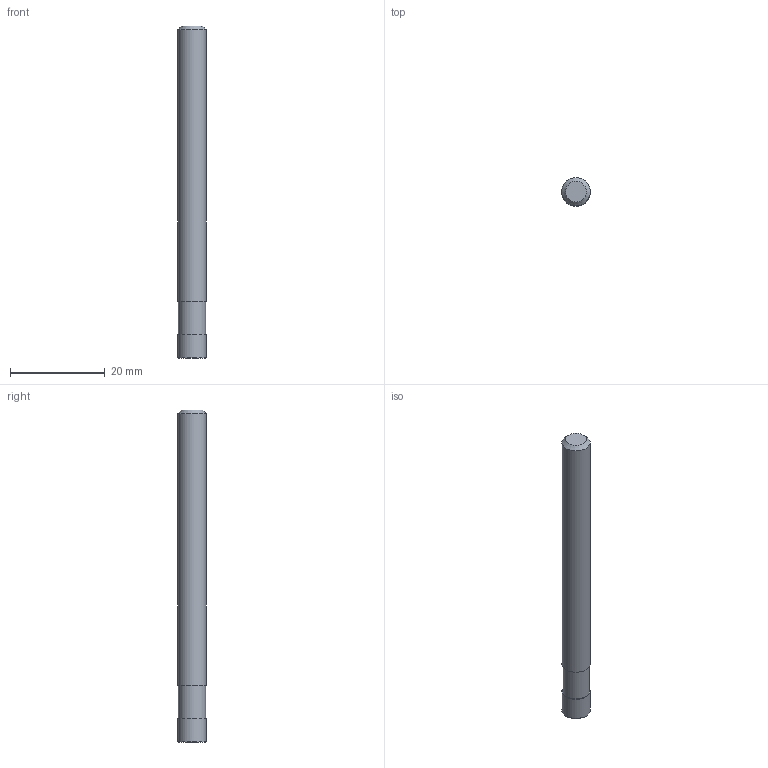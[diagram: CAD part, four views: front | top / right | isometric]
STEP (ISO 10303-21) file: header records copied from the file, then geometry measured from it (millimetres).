
FILE_DESCRIPTION((''),'2;1');
FILE_NAME('C:\Users\nsx150\AppData\Local\Temp\Mastercam 2021\CSMVKW3037\TEMP.step','2023-06-23T16:05:06',(''),(''),'STEP Write','Mastercam 2021 ... CNC Software, Inc.','');
FILE_SCHEMA(('AUTOMOTIVE_DESIGN'));
Length unit declared in the file: millimetre
Products named in the file (1): None
Bounding box: 6 x 6 x 70 mm (x, y, z)
Volume: 1954.4 mm3; surface area: 1415.9 mm2
Topology: 2 solids, 2 shells, 10 faces, 13 edges, 8 vertices
Faces by surface type: plane 5, cylinder 3, torus 1, cone 1
Full cylindrical faces by diameter (mm): 5.7 x1, 6 x2
Entity records: 232 total; most frequent: DIRECTION 40, CARTESIAN_POINT 28, AXIS2_PLACEMENT_3D 20, ORIENTED_EDGE 16, EDGE_LOOP 16, STYLED_ITEM 13, ADVANCED_FACE 10, FACE_BOUND 10
